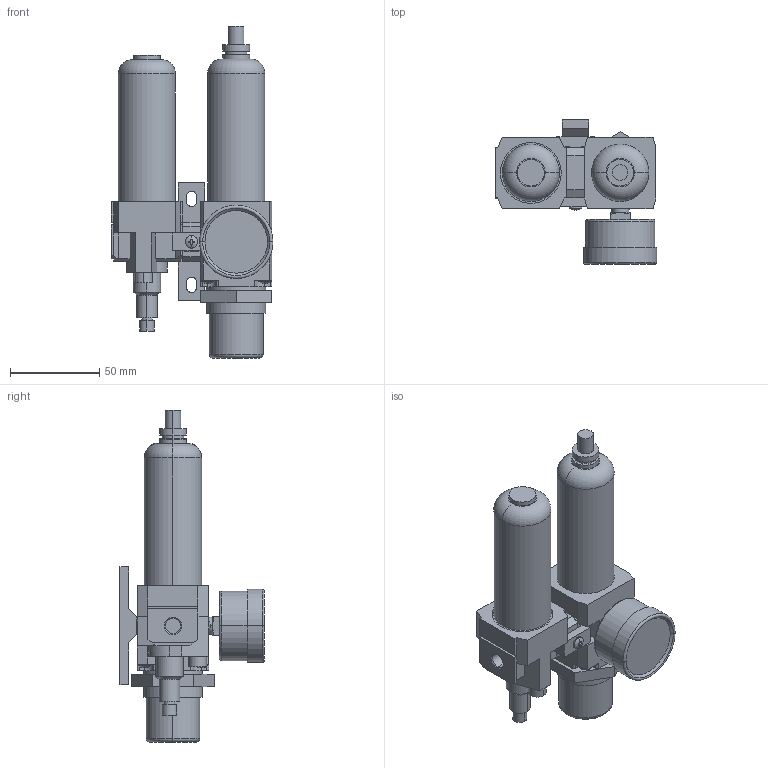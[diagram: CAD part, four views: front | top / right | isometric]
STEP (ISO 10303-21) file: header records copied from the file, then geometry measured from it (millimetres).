
FILE_DESCRIPTION (( 'STEP AP203' ), '1' );
FILE_NAME ('FRL200-01M-D.STEP', '2021-06-30T17:31:04', ( '' ), ( '' ), 'SwSTEP 2.0', 'SolidWorks 2019', '' );
FILE_SCHEMA (( 'CONFIG_CONTROL_DESIGN' ));
Length unit declared in the file: millimetre
Products named in the file (1): FRL200-01M-D
Bounding box: 90.5 x 80.7 x 185.8 mm (x, y, z)
Volume: 321198.5 mm3; surface area: 65896.7 mm2
Topology: 14 solids, 14 shells, 549 faces, 1307 edges, 835 vertices
Faces by surface type: plane 359, cylinder 118, cone 52, torus 10, sphere 10
Entity records: 16042 total; most frequent: CARTESIAN_POINT 2891, DIRECTION 2804, ORIENTED_EDGE 2614, EDGE_CURVE 1307, AXIS2_PLACEMENT_3D 959, LINE 886, VECTOR 886, VERTEX_POINT 835
